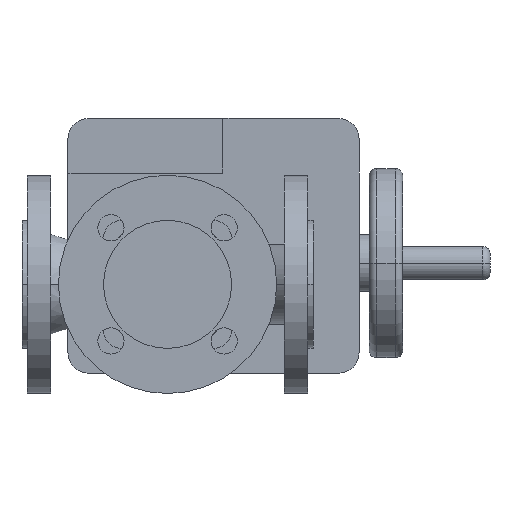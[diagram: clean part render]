
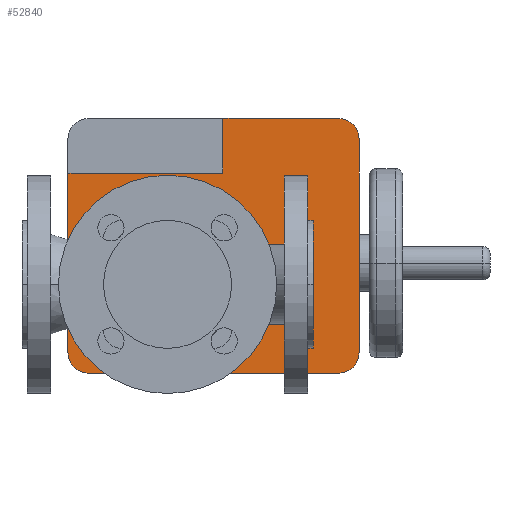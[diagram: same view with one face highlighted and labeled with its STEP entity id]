
A CAD part, front view. The second image highlights one B-rep face of the part: STEP entity #52840.
In plain terms, the highlighted planar face has unit normal (0, -1, 0).
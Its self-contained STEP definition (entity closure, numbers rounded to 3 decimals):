
#42000=CARTESIAN_POINT('',(231.6,415.5,100.));
#42010=VERTEX_POINT('',#42000);
#42060=CARTESIAN_POINT('',(217.6,415.5,100.));
#42070=DIRECTION('',(0.,1.,0.));
#42080=DIRECTION('',(0.,0.,1.));
#42090=AXIS2_PLACEMENT_3D('',#42060,#42070,#42080);
#42100=CIRCLE('',#42090,14.);
#42110=CARTESIAN_POINT('',(217.6,415.5,114.));
#42120=VERTEX_POINT('',#42110);
#42130=EDGE_CURVE('',#42120,#42010,#42100,.T.);
#44690=CARTESIAN_POINT('',(31.6,415.5,-47.));
#44700=VERTEX_POINT('',#44690);
#44750=CARTESIAN_POINT('',(45.6,415.5,-47.));
#44760=DIRECTION('',(0.,1.,0.));
#44770=DIRECTION('',(0.,0.,-1.));
#44780=AXIS2_PLACEMENT_3D('',#44750,#44760,#44770);
#44790=CIRCLE('',#44780,14.);
#44800=CARTESIAN_POINT('',(45.6,415.5,-61.));
#44810=VERTEX_POINT('',#44800);
#44820=EDGE_CURVE('',#44810,#44700,#44790,.T.);
#45430=CARTESIAN_POINT('',(231.6,415.5,-47.));
#45440=VERTEX_POINT('',#45430);
#45470=CARTESIAN_POINT('',(231.6,415.5,100.));
#45480=DIRECTION('',(0.,0.,-1.));
#45490=VECTOR('',#45480,1.);
#45500=LINE('',#45470,#45490);
#45510=EDGE_CURVE('',#42010,#45440,#45500,.T.);
#48290=CARTESIAN_POINT('',(217.6,415.5,-61.));
#48300=VERTEX_POINT('',#48290);
#48350=CARTESIAN_POINT('',(217.6,415.5,-47.));
#48360=DIRECTION('',(0.,1.,0.));
#48370=DIRECTION('',(1.,0.,0.));
#48380=AXIS2_PLACEMENT_3D('',#48350,#48360,#48370);
#48390=CIRCLE('',#48380,14.);
#48400=EDGE_CURVE('',#45440,#48300,#48390,.T.);
#49320=CARTESIAN_POINT('',(47.058,415.5,49.002));
#49330=VERTEX_POINT('',#49320);
#49360=CARTESIAN_POINT('',(55.216,415.5,45.2));
#49370=DIRECTION('',(0.,1.,0.));
#49380=DIRECTION('',(-0.906,0.,0.422));
#49390=AXIS2_PLACEMENT_3D('',#49360,#49370,#49380);
#49400=CIRCLE('',#49390,9.);
#49410=CARTESIAN_POINT('',(55.216,415.5,54.2));
#49420=VERTEX_POINT('',#49410);
#49430=EDGE_CURVE('',#49330,#49420,#49400,.T.);
#49690=CARTESIAN_POINT('',(77.608,415.5,54.2));
#49700=DIRECTION('',(1.,0.,0.));
#49710=VECTOR('',#49700,1.);
#49720=LINE('',#49690,#49710);
#49730=CARTESIAN_POINT('',(144.784,415.5,54.2));
#49740=VERTEX_POINT('',#49730);
#49750=EDGE_CURVE('',#49420,#49740,#49720,.T.);
#50000=CARTESIAN_POINT('',(144.784,415.5,45.2));
#50010=DIRECTION('',(0.,1.,0.));
#50020=DIRECTION('',(0.,0.,1.));
#50030=AXIS2_PLACEMENT_3D('',#50000,#50010,#50020);
#50040=CIRCLE('',#50030,9.);
#50050=CARTESIAN_POINT('',(152.942,415.5,49.002));
#50060=VERTEX_POINT('',#50050);
#50070=EDGE_CURVE('',#49740,#50060,#50040,.T.);
#50330=CARTESIAN_POINT('',(47.8,415.5,0.)
);
#50340=DIRECTION('',(0.,1.,0.));
#50350=DIRECTION('',(0.906,0.,0.422));
#50360=AXIS2_PLACEMENT_3D('',#50330,#50340,#50350);
#50370=CIRCLE('',#50360,116.);
#50380=CARTESIAN_POINT('',(152.942,415.5,-49.002));
#50390=VERTEX_POINT('',#50380);
#50400=EDGE_CURVE('',#50060,#50390,#50370,.T.);
#50660=CARTESIAN_POINT('',(144.784,415.5,-45.2));
#50670=DIRECTION('',(0.,1.,0.));
#50680=DIRECTION('',(0.906,0.,-0.422));
#50690=AXIS2_PLACEMENT_3D('',#50660,#50670,#50680);
#50700=CIRCLE('',#50690,9.);
#50710=CARTESIAN_POINT('',(144.784,415.5,-54.2));
#50720=VERTEX_POINT('',#50710);
#50730=EDGE_CURVE('',#50390,#50720,#50700,.T.);
#50990=CARTESIAN_POINT('',(122.392,415.5,-54.2));
#51000=DIRECTION('',(-1.,0.,0.));
#51010=VECTOR('',#51000,1.);
#51020=LINE('',#50990,#51010);
#51030=CARTESIAN_POINT('',(55.216,415.5,-54.2));
#51040=VERTEX_POINT('',#51030);
#51050=EDGE_CURVE('',#50720,#51040,#51020,.T.);
#51300=CARTESIAN_POINT('',(55.216,415.5,-45.2));
#51310=DIRECTION('',(0.,1.,0.));
#51320=DIRECTION('',(0.,0.,-1.));
#51330=AXIS2_PLACEMENT_3D('',#51300,#51310,#51320);
#51340=CIRCLE('',#51330,9.);
#51350=CARTESIAN_POINT('',(47.058,415.5,-49.002));
#51360=VERTEX_POINT('',#51350);
#51370=EDGE_CURVE('',#51040,#51360,#51340,.T.);
#51630=CARTESIAN_POINT('',(152.2,415.5,0.));
#51640=DIRECTION('',(0.,1.,0.));
#51650=DIRECTION('',(-0.906,0.,-0.422));
#51660=AXIS2_PLACEMENT_3D('',#51630,#51640,#51650);
#51670=CIRCLE('',#51660,116.);
#51680=EDGE_CURVE('',#51360,#49330,#51670,.T.);
#52270=CARTESIAN_POINT('',(100.,415.5,0.));
#52280=DIRECTION('',(0.,1.,0.));
#52290=DIRECTION('',(0.,0.,1.));
#52300=AXIS2_PLACEMENT_3D('',#52270,#52280,#52290);
#52310=PLANE('',#52300);
#52320=ORIENTED_EDGE('',*,*,#51680,.T.);
#52330=ORIENTED_EDGE('',*,*,#51370,.T.);
#52340=ORIENTED_EDGE('',*,*,#51050,.T.);
#52350=ORIENTED_EDGE('',*,*,#50730,.T.);
#52360=ORIENTED_EDGE('',*,*,#50400,.T.);
#52370=ORIENTED_EDGE('',*,*,#50070,.T.);
#52380=ORIENTED_EDGE('',*,*,#49750,.T.);
#52390=ORIENTED_EDGE('',*,*,#49430,.T.);
#52400=EDGE_LOOP('',(#52390,#52380,#52370,#52360,#52350,#52340,#52330,
#52320));
#52410=FACE_BOUND('',#52400,.T.);
#52420=CARTESIAN_POINT('',(138.1,415.5,38.25));
#52430=DIRECTION('',(0.,0.,-1.));
#52440=VECTOR('',#52430,1.);
#52450=LINE('',#52420,#52440);
#52460=CARTESIAN_POINT('',(138.1,415.5,114.));
#52470=VERTEX_POINT('',#52460);
#52480=CARTESIAN_POINT('',(138.1,415.5,76.5));
#52490=VERTEX_POINT('',#52480);
#52500=EDGE_CURVE('',#52470,#52490,#52450,.T.);
#52510=ORIENTED_EDGE('',*,*,#52500,.T.);
#52520=CARTESIAN_POINT('',(45.6,415.5,114.));
#52530=DIRECTION('',(1.,0.,0.));
#52540=VECTOR('',#52530,1.);
#52550=LINE('',#52520,#52540);
#52560=EDGE_CURVE('',#52470,#42120,#52550,.T.);
#52570=ORIENTED_EDGE('',*,*,#52560,.F.);
#52580=ORIENTED_EDGE('',*,*,#42130,.F.);
#52590=ORIENTED_EDGE('',*,*,#45510,.F.);
#52600=ORIENTED_EDGE('',*,*,#48400,.F.);
#52610=CARTESIAN_POINT('',(217.6,415.5,-61.));
#52620=DIRECTION('',(-1.,0.,0.));
#52630=VECTOR('',#52620,1.);
#52640=LINE('',#52610,#52630);
#52650=EDGE_CURVE('',#48300,#44810,#52640,.T.);
#52660=ORIENTED_EDGE('',*,*,#52650,.F.);
#52670=ORIENTED_EDGE('',*,*,#44820,.F.);
#52680=CARTESIAN_POINT('',(31.6,415.5,-47.));
#52690=DIRECTION('',(0.,0.,1.));
#52700=VECTOR('',#52690,1.);
#52710=LINE('',#52680,#52700);
#52720=CARTESIAN_POINT('',(31.6,415.5,76.5));
#52730=VERTEX_POINT('',#52720);
#52740=EDGE_CURVE('',#44700,#52730,#52710,.T.);
#52750=ORIENTED_EDGE('',*,*,#52740,.F.);
#52760=CARTESIAN_POINT('',(65.3,415.5,76.5));
#52770=DIRECTION('',(-1.,0.,0.));
#52780=VECTOR('',#52770,1.);
#52790=LINE('',#52760,#52780);
#52800=EDGE_CURVE('',#52490,#52730,#52790,.T.);
#52810=ORIENTED_EDGE('',*,*,#52800,.T.);
#52820=EDGE_LOOP('',(#52810,#52750,#52670,#52660,#52600,#52590,#52580,
#52570,#52510));
#52830=FACE_OUTER_BOUND('',#52820,.T.);
#52840=ADVANCED_FACE('',(#52410,#52830),#52310,.F.);
